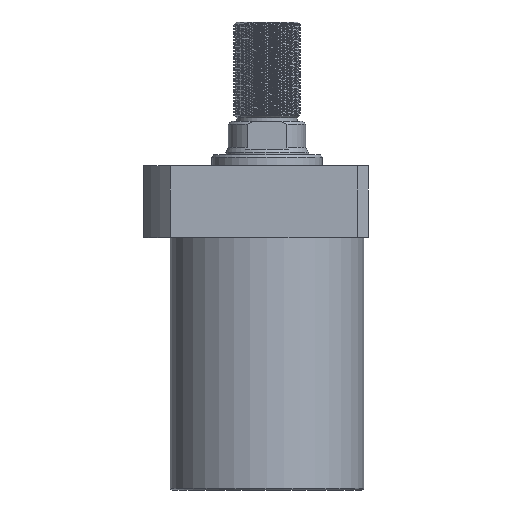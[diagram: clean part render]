
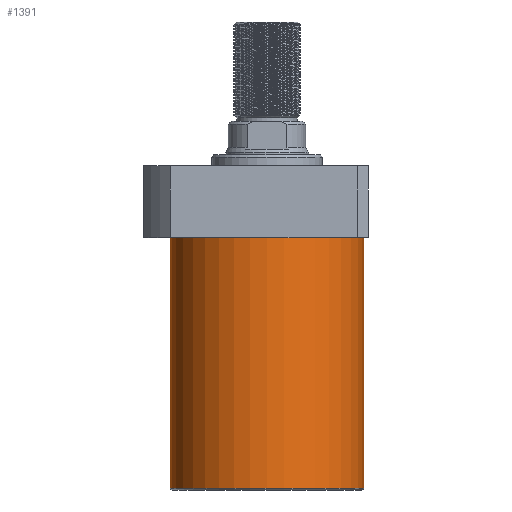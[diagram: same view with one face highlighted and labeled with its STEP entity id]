
A CAD part, front view. The second image highlights one B-rep face of the part: STEP entity #1391.
In plain terms, the highlighted cylindrical face has radius 52.5 mm (diameter 105 mm), a partial arc.
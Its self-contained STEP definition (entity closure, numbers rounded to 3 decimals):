
#141 = CARTESIAN_POINT ( 'NONE',  ( 0., 0., -155.5 ) ) ;
#1337 = EDGE_CURVE ( 'NONE', #1361, #3605, #2323, .T. ) ;
#1361 = VERTEX_POINT ( 'NONE', #4817 ) ;
#1391 = ADVANCED_FACE ( 'NONE', ( #3794 ), #3996, .T. ) ;
#1704 = ORIENTED_EDGE ( 'NONE', *, *, #4844, .T. ) ;
#2159 = CARTESIAN_POINT ( 'NONE',  ( 52.5, 0., -156.5 ) ) ;
#2235 = VERTEX_POINT ( 'NONE', #5767 ) ;
#2323 = CIRCLE ( 'NONE', #7695, 52.5 ) ;
#2334 = DIRECTION ( 'NONE',  ( 0., 0., -1. ) ) ;
#2445 = AXIS2_PLACEMENT_3D ( 'NONE', #6091, #2334, #6723 ) ;
#2467 = EDGE_CURVE ( 'NONE', #3605, #2235, #7515, .T. ) ;
#2924 = AXIS2_PLACEMENT_3D ( 'NONE', #7003, #6022, #4061 ) ;
#3592 = VECTOR ( 'NONE', #5033, 1000. ) ;
#3605 = VERTEX_POINT ( 'NONE', #6107 ) ;
#3621 = ORIENTED_EDGE ( 'NONE', *, *, #1337, .T. ) ;
#3787 = LINE ( 'NONE', #8100, #3592 ) ;
#3794 = FACE_OUTER_BOUND ( 'NONE', #7371, .T. ) ;
#3821 = CARTESIAN_POINT ( 'NONE',  ( -52.5, 0., -19.5 ) ) ;
#3996 = CYLINDRICAL_SURFACE ( 'NONE', #2924, 52.5 ) ;
#4061 = DIRECTION ( 'NONE',  ( 1., 0., 0. ) ) ;
#4151 = CIRCLE ( 'NONE', #2445, 52.5 ) ;
#4206 = VECTOR ( 'NONE', #6554, 1000. ) ;
#4817 = CARTESIAN_POINT ( 'NONE',  ( -52.5, 0., -155.5 ) ) ;
#4844 = EDGE_CURVE ( 'NONE', #2235, #5691, #4151, .T. ) ;
#5033 = DIRECTION ( 'NONE',  ( 0., 0., 1. ) ) ;
#5259 = ORIENTED_EDGE ( 'NONE', *, *, #2467, .T. ) ;
#5691 = VERTEX_POINT ( 'NONE', #3821 ) ;
#5767 = CARTESIAN_POINT ( 'NONE',  ( 52.5, 0., -19.5 ) ) ;
#5818 = ORIENTED_EDGE ( 'NONE', *, *, #6024, .F. ) ;
#5933 = DIRECTION ( 'NONE',  ( -1., 0., 0. ) ) ;
#6022 = DIRECTION ( 'NONE',  ( 0., 0., 1. ) ) ;
#6024 = EDGE_CURVE ( 'NONE', #1361, #5691, #3787, .T. ) ;
#6091 = CARTESIAN_POINT ( 'NONE',  ( 0., 0., -19.5 ) ) ;
#6107 = CARTESIAN_POINT ( 'NONE',  ( 52.5, 0., -155.5 ) ) ;
#6554 = DIRECTION ( 'NONE',  ( 0., 0., 1. ) ) ;
#6723 = DIRECTION ( 'NONE',  ( 1., 0., 0. ) ) ;
#7003 = CARTESIAN_POINT ( 'NONE',  ( 0., 0., -156.5 ) ) ;
#7371 = EDGE_LOOP ( 'NONE', ( #5818, #3621, #5259, #1704 ) ) ;
#7515 = LINE ( 'NONE', #2159, #4206 ) ;
#7695 = AXIS2_PLACEMENT_3D ( 'NONE', #141, #7885, #5933 ) ;
#7885 = DIRECTION ( 'NONE',  ( 0., 0., 1. ) ) ;
#8100 = CARTESIAN_POINT ( 'NONE',  ( -52.5, 0., -156.5 ) ) ;
